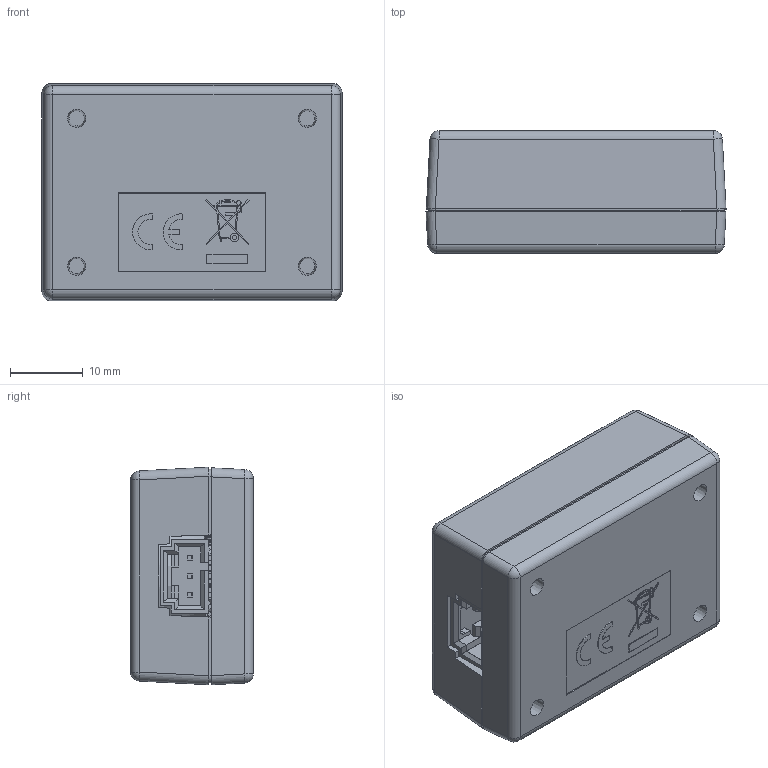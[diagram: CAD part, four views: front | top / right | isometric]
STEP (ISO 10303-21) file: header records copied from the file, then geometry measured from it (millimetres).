
FILE_DESCRIPTION(/* description */ ('Alibre Inc.'),/* implementation_level */ '2;1');
FILE_NAME(/* name */ 'export0',/* time_stamp */ '2017-08-18T12:07:44-06:00',/* author */ (''),/* organization */ (''),/* preprocessor_version */ 'ST-DEVELOPER v14',/* originating_system */ 'Alibre',/* authorisation */ '');
FILE_SCHEMA (('CONFIG_CONTROL_DESIGN'));
Length unit declared in the file: centimetre
Products named in the file (192): ID_1; ID_2; ID_3; ID_4; ID_5; ID_6; ID_7; ID_8; ID_9; ID_10; ID_11; ID_12; ID_13; ID_14; ID_15; ID_16; ID_17; ID_18; ID_19; ID_20; ID_21; ID_22; ID_23; ID_24; ID_25; ID_26; ID_27; ID_28; ID_29; ID_30; ID_31; ID_32; ID_33; ID_34; ID_35; ID_36; ID_37; ID_38; ID_39; ID_40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
Bounding box: 41.28 x 16.87 x 29.93 mm (x, y, z)
Volume: 12776.3 mm3; surface area: 19802.6 mm2
Topology: 236 solids, 236 shells, 3813 faces, 9732 edges, 6422 vertices
Faces by surface type: plane 3224, cylinder 392, bspline 175, cone 14, sphere 8
Full cylindrical faces by diameter (mm): 0.6 x1, 0.889 x2, 0.965 x9, 3.124 x4, 3.175 x12, 8.636 x1, 9.652 x1
Entity records: 92177 total; most frequent: CARTESIAN_POINT 17495, ORIENTED_EDGE 11500, DIRECTION 8876, EDGE_CURVE 5750, VECTOR 4551, LINE 4551, VERTEX_POINT 3790, AXIS2_PLACEMENT_3D 2941
